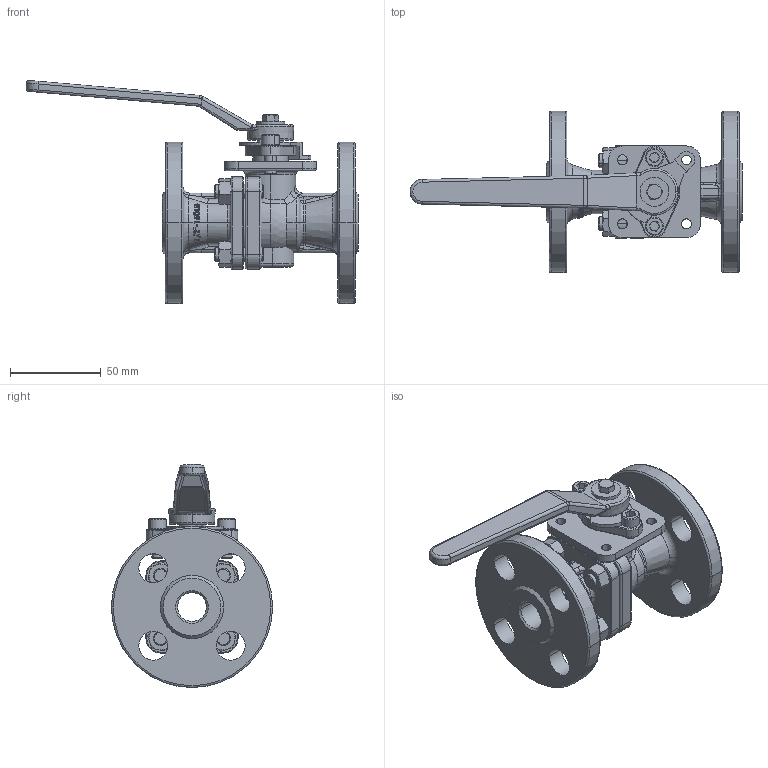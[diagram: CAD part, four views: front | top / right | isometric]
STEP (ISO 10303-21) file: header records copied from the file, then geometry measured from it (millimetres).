
FILE_DESCRIPTION(('Open CASCADE Model'),'2;1');
FILE_NAME('Open CASCADE Shape Model','2021-11-19T08:22:28',('Author'),( 'Open CASCADE'),'Open CASCADE STEP processor 7.3','Open CASCADE 7.3' ,'Unknown');
FILE_SCHEMA(('AUTOMOTIVE_DESIGN { 1 0 10303 214 1 1 1 1 }'));
Length unit declared in the file: millimetre
Products named in the file (4): Open CASCADE STEP translator 7.3 1; Open CASCADE STEP translator 7.3 1.1; Open CASCADE STEP translator 7.3 1.2; Open CASCADE STEP translator 7.3 1.3
Assembly tree (3 placements, depth 2):
  Open CASCADE STEP translator 7.3 1
    Open CASCADE STEP translator 7.3 1.1
    Open CASCADE STEP translator 7.3 1.2
    Open CASCADE STEP translator 7.3 1.3
Bounding box: 183.35 x 89 x 123.2 mm (x, y, z)
Volume: 221683.8 mm3; surface area: 79054.8 mm2
Topology: 3 solids, 12 shells, 900 faces, 2161 edges, 1322 vertices
Faces by surface type: plane 295, cylinder 274, cone 139, bspline 98, torus 78, sphere 16
Entity records: 101054 total; most frequent: CARTESIAN_POINT 60277, DIRECTION 7019, ORIENTED_EDGE 4292, PCURVE 4292, DEFINITIONAL_REPRESENTATION 4292, LINE 3393, VECTOR 3393, EDGE_CURVE 2146
